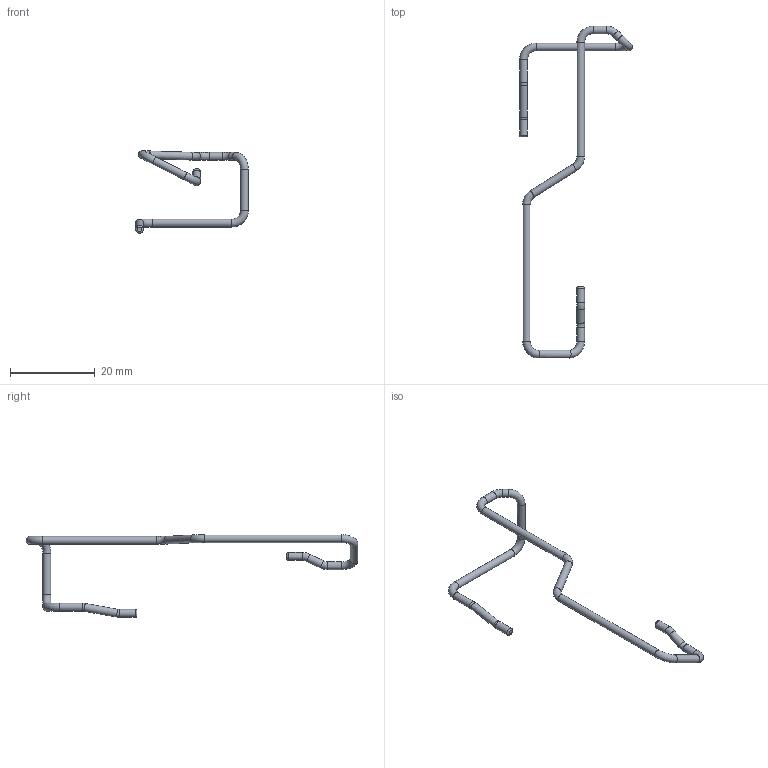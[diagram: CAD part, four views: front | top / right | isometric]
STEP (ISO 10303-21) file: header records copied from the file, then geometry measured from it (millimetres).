
FILE_DESCRIPTION(('Open CASCADE Model'),'2;1');
FILE_NAME('CUT_ROUTE_03_RADIAL_CLEARANCE_0p4','2026-09-15T14:21:35',( 'Author'),('Open CASCADE'),'Open CASCADE STEP processor 7.9', 'build123d','Unknown');
FILE_SCHEMA(('AUTOMOTIVE_DESIGN { 1 0 10303 214 1 1 1 1 }'));
Length unit declared in the file: millimetre
Products named in the file (1): CUT_ROUTE_03_RADIAL_CLEARANCE_0p4
Bounding box: 26.65 x 78.5 x 19.51 mm (x, y, z)
Volume: 486.1 mm3; surface area: 1055 mm2
Topology: 1 solids, 1 shells, 31 faces, 59 edges, 30 vertices
Faces by surface type: torus 15, cylinder 14, plane 2
Full cylindrical faces by diameter (mm): 1.85 x14
Entity records: 1498 total; most frequent: CARTESIAN_POINT 292, DIRECTION 233, ORIENTED_EDGE 118, PCURVE 118, DEFINITIONAL_REPRESENTATION 118, AXIS2_PLACEMENT_3D 77, LINE 77, VECTOR 77
